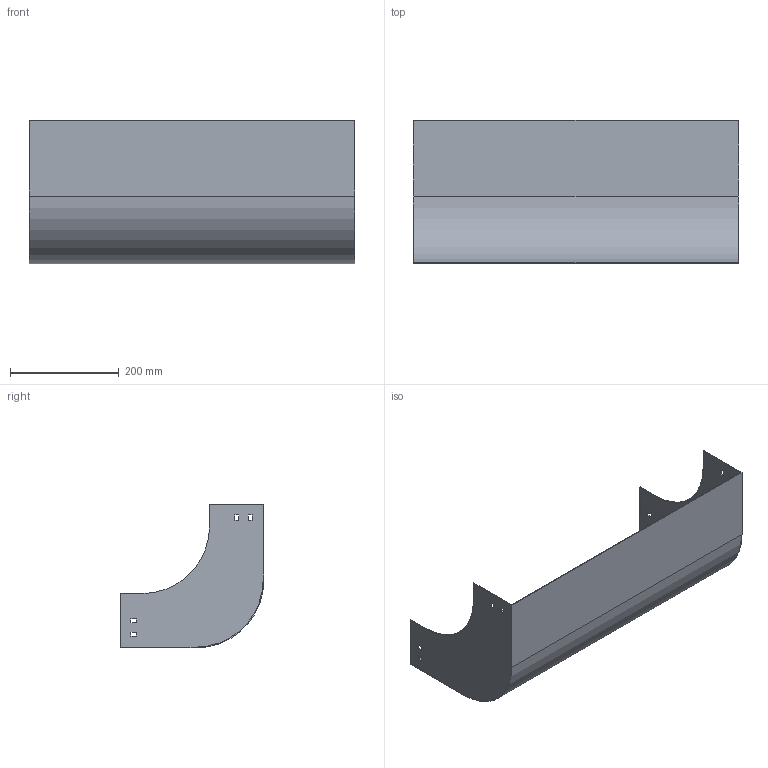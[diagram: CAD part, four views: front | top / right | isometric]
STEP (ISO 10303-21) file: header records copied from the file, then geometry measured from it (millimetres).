
FILE_DESCRIPTION (( 'STEP AP214' ), '1' );
FILE_NAME ('S9_601.step', '2025-07-16T09:28:44', ( '' ), ( '' ), 'SwSTEP 2.0', 'SolidWorks 2023', '' );
FILE_SCHEMA (( 'AUTOMOTIVE_DESIGN' ));
Length unit declared in the file: millimetre
Products named in the file (1): S9_601
Bounding box: 600 x 265 x 265 mm (x, y, z)
Volume: 553676 mm3; surface area: 741866.3 mm2
Topology: 1 solids, 1 shells, 50 faces, 144 edges, 96 vertices
Faces by surface type: plane 46, cylinder 4
Entity records: 1671 total; most frequent: CARTESIAN_POINT 291, ORIENTED_EDGE 288, DIRECTION 254, EDGE_CURVE 144, LINE 136, VECTOR 136, VERTEX_POINT 96, EDGE_LOOP 66
